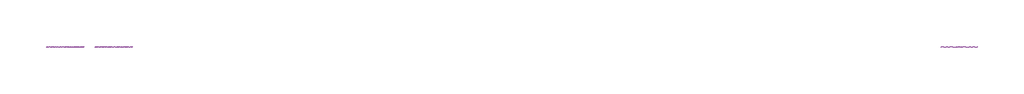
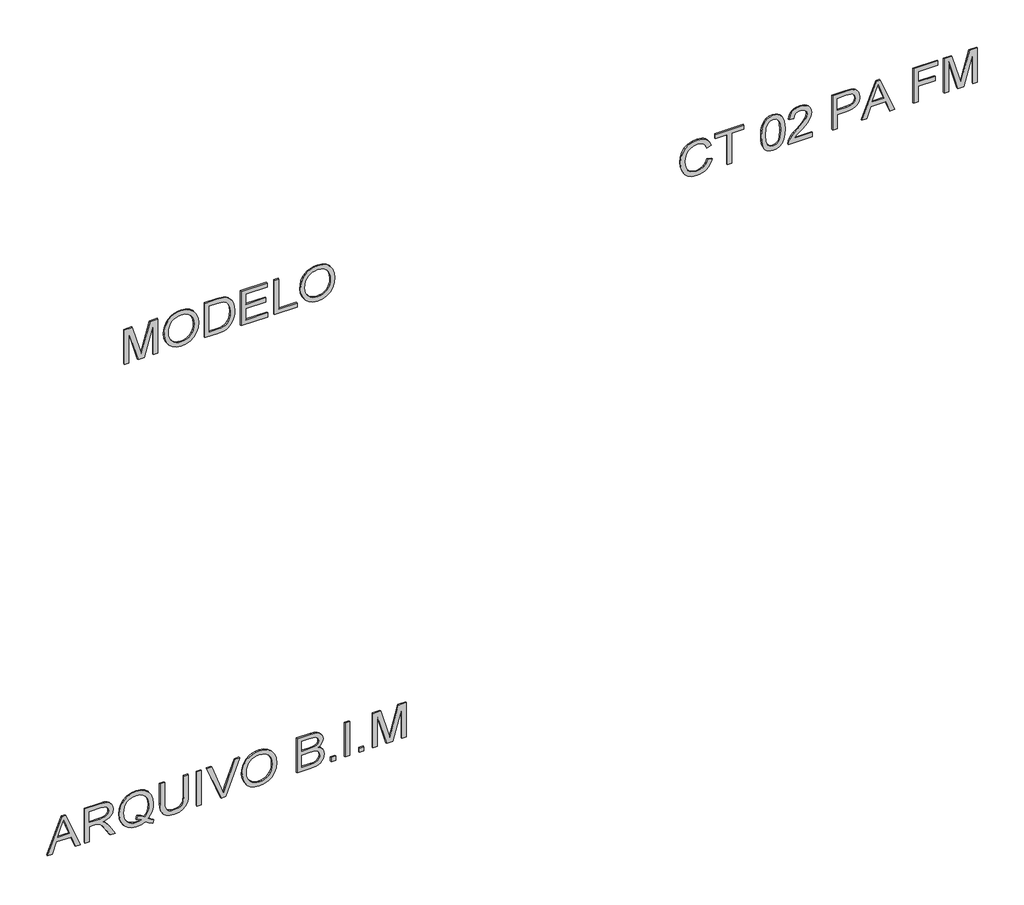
# One storey, part 1 of 2: 3 proxies.
"""IFC4 building model written with IfcOpenShell, lengths in millimetres."""

from ifc_helpers import new_model, si_unit, frame, origin, place, context, project, spatial, polyline, outline, extrude, element, save

model = new_model("IFC4")

# Units and contexts
model_context = context("Model", 3, world=origin())
ifc_project = project(units=[si_unit("LENGTHUNIT", "METRE", prefix="MILLI")], contexts=[model_context])

# Site, building, storey
site = spatial("IfcSite", under=ifc_project)
building = spatial("IfcBuilding", under=site)
storey = spatial("IfcBuildingStorey", under=building, Name="02 - Marelli - Planta Baixa - Cabine 02 Pessoas", Elevation=-12000.0)

# Proxies
placement = place(None, origin())
element("IfcBuildingElementProxy", 1, Name="300mm Arial", ObjectType="300mm Arial", at=placement, inside=storey, context=model_context, shape_type="SweptSolid", body=[
    extrude(outline(polyline([(-10400.0, -7636.3146377), (-10400.0, -7596.5098058), (-10305.8222092, -7562.076051), (-10305.8222092, -7437.9526659), (-10400.0, -7403.4453347), (-10400.0, -7363.6405028), (-10098.6310696, -7483.9379153), (-10098.6310696, -7516.0172252), (-10400.0, -7636.3146377)]), holes=[polyline([(-10268.1510929, -7548.243688), (-10187.584936, -7518.739552), (-10136.3021859, -7499.9775703), (-10194.0596591, -7478.8611437), (-10268.1510929, -7451.7114525), (-10268.1510929, -7548.243688)])]), frame((0.0, 8778.3159498, 0.0), z_axis=(0.0, 1.0, 0.0), x_axis=(0.0, 0.0, 1.0)), (0.0, 0.0, 1.0), 10.0),
    extrude(outline(polyline([(-10400.0, -7323.3942126), (-10400.0, -7285.7230963), (-10268.1510929, -7285.7230963), (-10268.1510929, -7240.2528817), (-10269.4754681, -7218.4006911), (-10276.649167, -7200.484838), (-10296.183701, -7180.582422), (-10337.5336372, -7152.2555084), (-10400.0, -7113.0392877), (-10400.0, -7069.2613303), (-10318.3301971, -7119.5140108), (-10279.5554348, -7150.0482164), (-10263.4422034, -7171.4589486), (-10253.4542072, -7134.3488523), (-10245.4389783, -7119.9669655), (-10235.4095954, -7108.3671864), (-10210.7982899, -7093.0540983), (-10181.1102129, -7087.9497357), (-10157.2438684, -7091.0307474), (-10135.5296337, -7100.2737825), (-10118.0184507, -7114.6763626), (-10106.7612616, -7133.2360093), (-10100.6636176, -7158.629064), (-10098.6310696, -7193.5318683), (-10098.6310696, -7323.3942126), (-10400.0, -7323.3942126)]), holes=[polyline([(-10230.4799766, -7285.7230963), (-10136.3021859, -7285.7230963), (-10136.3021859, -7191.9131875), (-10139.5579415, -7162.1055488), (-10149.3252085, -7141.5501423), (-10164.1324588, -7129.6031746), (-10182.5081645, -7125.620852), (-10195.8162956, -7127.7085823), (-10208.0759631, -7133.9717732), (-10218.2111121, -7144.254075), (-10225.1456877, -7158.3991377), (-10229.1464044, -7177.1887106), (-10230.4799766, -7201.404543), (-10230.4799766, -7285.7230963)])]), frame((0.0, 8778.3159498, 0.0), z_axis=(0.0, 1.0, 0.0), x_axis=(0.0, 0.0, 1.0)), (0.0, 0.0, 1.0), 10.0),
    extrude(outline(polyline([(-10363.8739881, -6795.6307023), (-10340.3479345, -6777.1814202), (-10313.0326963, -6764.0664271), (-10281.9650618, -6756.2305406), (-10247.1818192, -6753.6185784), (-10205.3536364, -6757.9227978), (-10168.0136138, -6770.8354558), (-10136.8172207, -6791.9610794), (-10113.4199258, -6820.9041954), (-10098.7966164, -6855.7702114), (-10093.92218, -6894.6645354), (-10098.6862519, -6933.2553567), (-10112.9784674, -6967.9466288), (-10136.3849593, -6996.93573), (-10168.4918604, -7018.4200386), (-10206.944726, -7031.7189727), (-10249.3891112, -7036.1519507), (-10291.7967082, -7031.7097756), (-10329.6977507, -7018.3832504), (-10361.3539964, -6996.8161684), (-10385.0272028, -6967.6523232), (-10399.7884679, -6932.8322924), (-10404.7088895, -6894.2966534), (-10400.4414584, -6855.9449554), (-10387.639165, -6821.0881364), (-10408.47968, -6790.1308665), (-10422.8822601, -6759.063232), (-10395.2911105, -6748.9096889), (-10382.4704229, -6771.2953083), (-10363.8739881, -6795.6307023)]), holes=[polyline([(-10313.7684603, -6883.9223811), (-10342.6104088, -6893.6344658), (-10349.287467, -6873.2721974), (-10359.3122513, -6853.9767867), (-10365.1063928, -6873.6032912), (-10367.0377732, -6894.5173826), (-10365.1362832, -6916.2385151), (-10359.431813, -6935.9316982), (-10349.9243627, -6953.5969318), (-10336.6139322, -6969.2342158), (-10319.748842, -6982.0296115), (-10299.5774124, -6991.1691798), (-10276.0996433, -6996.6529208), (-10249.3155348, -6998.4808344), (-10221.8140564, -6996.6322274), (-10197.9500112, -6991.0864063), (-10177.7233993, -6981.8433712), (-10161.1342205, -6968.903122), (-10148.2100662, -6953.1577726), (-10138.9785274, -6935.4994369), (-10133.4396041, -6915.9281147), (-10131.5932963, -6894.4438062), (-10135.2445251, -6865.9605427), (-10146.1982115, -6840.4019411), (-10163.7645768, -6819.2027411), (-10187.2538422, -6803.7976826), (-10215.9394408, -6794.4166917), (-10249.0948056, -6791.2896947), (-10278.2678478, -6793.5015852), (-10303.5413409, -6800.1372567), (-10324.9152848, -6811.1967092), (-10342.3896796, -6826.6799427), (-10325.7430193, -6852.2477413), (-10313.7684603, -6883.9223811)])]), frame((0.0, 8778.3159498, 0.0), z_axis=(0.0, 1.0, 0.0), x_axis=(0.0, 0.0, 1.0)), (0.0, 0.0, 1.0), 10.0),
    extrude(outline(polyline([(-10098.6310696, -6499.3385434), (-10271.1677253, -6499.3385434), (-10318.3301971, -6504.1026152), (-10335.0688279, -6510.057705), (-10347.2457219, -6518.3948307), (-10355.9047444, -6529.5278596), (-10362.0897604, -6543.8706589), (-10367.0377732, -6582.1855687), (-10364.5361757, -6606.3554158), (-10357.031383, -6626.4785609), (-10344.9188683, -6641.9112106), (-10328.5941047, -6652.0095714), (-10305.0220659, -6657.5829836), (-10271.1677253, -6659.4407877), (-10098.6310696, -6659.4407877), (-10098.6310696, -6697.111904), (-10272.4921005, -6697.111904), (-10315.2675795, -6694.2516215), (-10347.9446977, -6685.6707739), (-10372.3076828, -6670.4036711), (-10390.1407625, -6647.4846228), (-10401.0668578, -6616.904432), (-10404.7088895, -6578.6539015), (-10400.5242318, -6539.5480454), (-10387.9702588, -6508.7563224), (-10368.7484245, -6486.2235502), (-10344.5601833, -6471.8945465), (-10313.2074403, -6464.2242069), (-10272.4921005, -6461.6674271), (-10098.6310696, -6461.6674271), (-10098.6310696, -6499.3385434)])), frame((0.0, 8778.3159498, 0.0), z_axis=(0.0, 1.0, 0.0), x_axis=(0.0, 0.0, 1.0)), (0.0, 0.0, 1.0), 10.0),
    extrude(outline(polyline([(-6353.3629677, 8778.3159498), (-6391.034084, 8778.3159498), (-6391.034084, 8788.3159498), (-6353.3629677, 8788.3159498), (-6353.3629677, 8778.3159498)])), frame((0.0, 0.0, -10400.0), z_axis=(0.0, 0.0, 1.0), x_axis=(1.0, 0.0, 0.0)), (0.0, 0.0, 1.0), 301.3689304),
    extrude(outline(polyline([(-10400.0, -6188.9932922), (-10400.0, -6150.0713771), (-10098.6310696, -6035.2186183), (-10098.6310696, -6075.5384849), (-10315.7550231, -6156.0310655), (-10364.6833285, -6172.0707205), (-10315.7550231, -6188.3311046), (-10098.6310696, -6268.602956), (-10098.6310696, -6308.9228227), (-10400.0, -6188.9932922)])), frame((0.0, 8778.3159498, 0.0), z_axis=(0.0, 1.0, 0.0), x_axis=(0.0, 0.0, 1.0)), (0.0, 0.0, 1.0), 10.0),
    extrude(outline(polyline([(-10253.2886603, -6014.3229209), (-10291.8334964, -6010.0187016), (-10328.2997991, -5997.1060436), (-10359.992833, -5975.8424642), (-10384.2178624, -5946.485481), (-10399.5861328, -5910.8377157), (-10404.7088895, -5870.70179), (-10400.0735764, -5832.892718), (-10386.167637, -5797.7507904), (-10363.2485887, -5767.7868019), (-10331.5739489, -5745.5115471), (-10293.1118863, -5731.6883811), (-10249.8305696, -5727.0806591), (-10207.1194699, -5731.4584548), (-10169.1908362, -5744.5918421), (-10137.5713787, -5766.0761506), (-10113.7878078, -5795.5067102), (-10098.8885869, -5830.9521404), (-10093.92218, -5870.4810608), (-10096.5663319, -5900.7715446), (-10104.4987874, -5928.1465636), (-10117.7195466, -5952.6061177), (-10136.2286095, -5974.1502071), (-10159.4097737, -5991.7257694), (-10186.6468369, -6004.2797425), (-10217.9397991, -6011.8121263), (-10253.2886603, -6014.3229209)]), holes=[polyline([(-10253.6565423, -5976.6518046), (-10223.1200375, -5974.6882345), (-10197.2878236, -5968.797524), (-10176.1599008, -5958.9796733), (-10159.736269, -5945.2346822), (-10147.4237184, -5928.7673644), (-10138.6290395, -5910.7825334), (-10133.3522321, -5891.2801891), (-10131.5932963, -5870.2603316), (-10135.2445251, -5841.0964864), (-10146.1982115, -5814.9676677), (-10163.7921679, -5793.3086153), (-10187.3642068, -5777.5540688), (-10216.1877611, -5767.9523488), (-10249.536264, -5764.7517754), (-10276.0743514, -5766.6210758), (-10299.4026684, -5772.228977), (-10319.521215, -5781.5754789), (-10336.4299912, -5794.6605816), (-10349.8208959, -5810.642755), (-10359.3858277, -5828.6804691), (-10365.1247869, -5848.7737238), (-10367.0377732, -5870.9225192), (-10365.143181, -5892.6988341), (-10359.4594041, -5912.557564), (-10349.9864428, -5930.4987091), (-10336.7242968, -5946.5222692), (-10320.1650085, -5959.703941), (-10300.80062, -5969.1194208), (-10278.6311313, -5974.7687087), (-10253.6565423, -5976.6518046)])]), frame((0.0, 8778.3159498, 0.0), z_axis=(0.0, 1.0, 0.0), x_axis=(0.0, 0.0, 1.0)), (0.0, 0.0, 1.0), 10.0),
    extrude(outline(polyline([(-10400.0, -5557.5606357), (-10400.0, -5443.4436408), (-10394.8128639, -5395.1407348), (-10388.3933231, -5377.10532), (-10379.5089729, -5362.3624491), (-10367.2401083, -5350.3235108), (-10350.6670244, -5340.399894), (-10331.1784758, -5333.7504269), (-10310.1632168, -5331.5339379), (-10284.944906, -5334.7804965), (-10263.2950506, -5344.5201723), (-10246.3356906, -5360.2931129), (-10235.1888662, -5381.6394656), (-10223.4442335, -5363.7695977), (-10208.5174215, -5351.0684718), (-10191.456894, -5343.4809057), (-10173.3111146, -5340.951717), (-10153.5926396, -5343.9591523), (-10134.7570815, -5352.9814582), (-10118.7450176, -5367.3104619), (-10107.4970256, -5386.2379906), (-10100.8475586, -5410.9320695), (-10098.6310696, -5442.560724), (-10098.6310696, -5557.5606357), (-10400.0, -5557.5606357)]), holes=[polyline([(-10221.0621975, -5519.8895194), (-10136.3021859, -5519.8895194), (-10136.3021859, -5456.3195106), (-10140.2385232, -5407.9062401), (-10145.8395266, -5395.4166463), (-10154.769862, -5386.2012024), (-10166.2109921, -5380.5174255), (-10179.3443793, -5378.6228333), (-10192.8732397, -5380.6553813), (-10203.8821084, -5386.7530254), (-10212.2422267, -5396.8605832), (-10217.824836, -5410.9228724), (-10221.0621975, -5451.0955863), (-10221.0621975, -5519.8895194)]), polyline([(-10362.3288837, -5519.8895194), (-10258.7333139, -5519.8895194), (-10258.7333139, -5446.3131204), (-10259.9933097, -5419.4853259), (-10263.7732972, -5399.776048), (-10270.6618875, -5385.8609115), (-10281.247692, -5376.4155413), (-10294.7857494, -5371.007676), (-10310.5310988, -5369.2050542), (-10324.0875503, -5370.7409615), (-10335.9149564, -5375.3486835), (-10352.6535872, -5391.0204565), (-10360.8573557, -5414.6752688), (-10362.3288837, -5442.6343004), (-10362.3288837, -5519.8895194)])]), frame((0.0, 8778.3159498, 0.0), z_axis=(0.0, 1.0, 0.0), x_axis=(0.0, 0.0, 1.0)), (0.0, 0.0, 1.0), 10.0),
    extrude(outline(polyline([(-5237.3561471, 8778.3159498), (-5275.0272634, 8778.3159498), (-5275.0272634, 8788.3159498), (-5237.3561471, 8788.3159498), (-5237.3561471, 8778.3159498)])), frame((0.0, 0.0, -10400.0), z_axis=(0.0, 0.0, 1.0), x_axis=(1.0, 0.0, 0.0)), (0.0, 0.0, 1.0), 37.6711163),
    extrude(outline(polyline([(-5119.6339087, 8778.3159498), (-5157.305025, 8778.3159498), (-5157.305025, 8788.3159498), (-5119.6339087, 8788.3159498), (-5119.6339087, 8778.3159498)])), frame((0.0, 0.0, -10400.0), z_axis=(0.0, 0.0, 1.0), x_axis=(1.0, 0.0, 0.0)), (0.0, 0.0, 1.0), 301.3689304),
    extrude(outline(polyline([(-5001.9116702, 8778.3159498), (-5039.5827865, 8778.3159498), (-5039.5827865, 8788.3159498), (-5001.9116702, 8788.3159498), (-5001.9116702, 8778.3159498)])), frame((0.0, 0.0, -10400.0), z_axis=(0.0, 0.0, 1.0), x_axis=(1.0, 0.0, 0.0)), (0.0, 0.0, 1.0), 37.6711163),
    extrude(outline(polyline([(-10400.0, -4926.5694376), (-10400.0, -4888.8983213), (-10136.3021859, -4888.8983213), (-10400.0, -4813.1882067), (-10400.0, -4762.1261857), (-10136.3021859, -4686.4160711), (-10400.0, -4686.4160711), (-10400.0, -4648.7449548), (-10098.6310696, -4648.7449548), (-10098.6310696, -4713.5657624), (-10307.3673136, -4774.1927152), (-10355.4127022, -4787.6571962), (-10311.0461336, -4800.0916076), (-10098.6310696, -4861.74863), (-10098.6310696, -4926.5694376), (-10400.0, -4926.5694376)])), frame((0.0, 8778.3159498, 0.0), z_axis=(0.0, 1.0, 0.0), x_axis=(0.0, 0.0, 1.0)), (0.0, 0.0, 1.0), 10.0),
])
element("IfcBuildingElementProxy", 2, Name="300mm Arial", ObjectType="300mm Arial", at=placement, inside=storey, context=model_context, shape_type="SweptSolid", body=[
    extrude(outline(polyline([(-6300.0, -6993.7719449), (-6300.0, -6956.1008286), (-6036.3021859, -6956.1008286), (-6300.0, -6880.390714), (-6300.0, -6829.328693), (-6036.3021859, -6753.6185784), (-6300.0, -6753.6185784), (-6300.0, -6715.9474621), (-5998.6310696, -6715.9474621), (-5998.6310696, -6780.7682697), (-6207.3673136, -6841.3952225), (-6255.4127022, -6854.8597035), (-6211.0461336, -6867.2941149), (-5998.6310696, -6928.9511373), (-5998.6310696, -6993.7719449), (-6300.0, -6993.7719449)])), frame((0.0, 8778.3159498, 0.0), z_axis=(0.0, 1.0, 0.0), x_axis=(0.0, 0.0, 1.0)), (0.0, 0.0, 1.0), 10.0),
    extrude(outline(polyline([(-6153.2886603, -6664.1496772), (-6191.8334964, -6659.8454579), (-6228.2997991, -6646.9327998), (-6259.992833, -6625.6692205), (-6284.2178624, -6596.3122373), (-6299.5861328, -6560.664472), (-6304.7088895, -6520.5285463), (-6300.0735764, -6482.7194742), (-6286.167637, -6447.5775466), (-6263.2485887, -6417.6135581), (-6231.5739489, -6395.3383033), (-6193.1118863, -6381.5151374), (-6149.8305696, -6376.9074154), (-6107.1194699, -6381.2852111), (-6069.1908362, -6394.4185983), (-6037.5713787, -6415.9029069), (-6013.7878078, -6445.3334665), (-5998.8885869, -6480.7788967), (-5993.92218, -6520.3078171), (-5996.5663319, -6550.5983009), (-6004.4987874, -6577.9733198), (-6017.7195466, -6602.432874), (-6036.2286095, -6623.9769633), (-6059.4097737, -6641.5525257), (-6086.6468369, -6654.1064987), (-6117.9397991, -6661.6388826), (-6153.2886603, -6664.1496772)]), holes=[polyline([(-6153.6565423, -6626.4785609), (-6123.1200375, -6624.5149908), (-6097.2878236, -6618.6242803), (-6076.1599008, -6608.8064296), (-6059.736269, -6595.0614385), (-6047.4237184, -6578.5941207), (-6038.6290395, -6560.6092897), (-6033.3522321, -6541.1069454), (-6031.5932963, -6520.0870879), (-6035.2445251, -6490.9232427), (-6046.1982115, -6464.794424), (-6063.7921679, -6443.1353716), (-6087.3642068, -6427.3808251), (-6116.1877611, -6417.779105), (-6149.536264, -6414.5785317), (-6176.0743514, -6416.4478321), (-6199.4026684, -6422.0557332), (-6219.521215, -6431.4022352), (-6236.4299912, -6444.4873379), (-6249.8208959, -6460.4695113), (-6259.3858277, -6478.5072254), (-6265.1247869, -6498.6004801), (-6267.0377732, -6520.7492755), (-6265.143181, -6542.5255903), (-6259.4594041, -6562.3843203), (-6249.9864428, -6580.3254653), (-6236.7242968, -6596.3490255), (-6220.1650085, -6609.5306972), (-6200.80062, -6618.9461771), (-6178.6311313, -6624.5954649), (-6153.6565423, -6626.4785609)])]), frame((0.0, 8778.3159498, 0.0), z_axis=(0.0, 1.0, 0.0), x_axis=(0.0, 0.0, 1.0)), (0.0, 0.0, 1.0), 10.0),
    extrude(outline(polyline([(-6300.0, -6325.1096305), (-6300.0, -6216.1429835), (-6294.8496521, -6167.6929247), (-6288.4944906, -6148.1491937), (-6279.7297021, -6131.6772774), (-6267.911493, -6117.3298796), (-6252.3960698, -6104.1597042), (-6232.7419742, -6092.7185741), (-6208.5077478, -6083.5583124), (-6180.0428784, -6077.5434418), (-6147.696854, -6075.5384849), (-6109.6210675, -6078.499935), (-6076.0334413, -6087.3842852), (-6047.4857985, -6102.2283237), (-6024.529962, -6123.0688387), (-6011.3413925, -6143.3391366), (-6002.9720771, -6167.3618309), (-5998.6310696, -6221.1461786), (-5998.6310696, -6325.1096305), (-6300.0, -6325.1096305)]), holes=[polyline([(-6262.3288837, -6287.4385141), (-6036.3021859, -6287.4385141), (-6036.3021859, -6221.8083662), (-6037.810502, -6190.06015), (-6042.3354506, -6168.3919005), (-6054.9170148, -6147.10073), (-6075.7391357, -6129.2860444), (-6106.0526121, -6117.228712), (-6147.1082428, -6113.2096012), (-6178.0931038, -6115.2605434), (-6204.0931639, -6121.4133697), (-6225.2003933, -6131.245016), (-6241.5067628, -6144.332418), (-6250.3175366, -6156.5093121), (-6256.8842302, -6172.2914497), (-6260.9677203, -6193.2055411), (-6262.3288837, -6220.7782966), (-6262.3288837, -6287.4385141)])]), frame((0.0, 8778.3159498, 0.0), z_axis=(0.0, 1.0, 0.0), x_axis=(0.0, 0.0, 1.0)), (0.0, 0.0, 1.0), 10.0),
    extrude(outline(polyline([(-6300.0, -6023.7407), (-6300.0, -5802.4228917), (-6262.3288837, -5802.4228917), (-6262.3288837, -5986.0695837), (-6163.4422034, -5986.0695837), (-6163.4422034, -5816.5495603), (-6125.7710871, -5816.5495603), (-6125.7710871, -5986.0695837), (-6036.3021859, -5986.0695837), (-6036.3021859, -5807.1317812), (-5998.6310696, -5807.1317812), (-5998.6310696, -6023.7407), (-6300.0, -6023.7407)])), frame((0.0, 8778.3159498, 0.0), z_axis=(0.0, 1.0, 0.0), x_axis=(0.0, 0.0, 1.0)), (0.0, 0.0, 1.0), 10.0),
    extrude(outline(polyline([(-6300.0, -5745.9162172), (-6300.0, -5557.5606357), (-6262.3288837, -5557.5606357), (-6262.3288837, -5708.2451009), (-5998.6310696, -5708.2451009), (-5998.6310696, -5745.9162172), (-6300.0, -5745.9162172)])), frame((0.0, 8778.3159498, 0.0), z_axis=(0.0, 1.0, 0.0), x_axis=(0.0, 0.0, 1.0)), (0.0, 0.0, 1.0), 10.0),
    extrude(outline(polyline([(-6153.2886603, -5529.3072985), (-6191.8334964, -5525.0030791), (-6228.2997991, -5512.0904211), (-6259.992833, -5490.8268418), (-6284.2178624, -5461.4698586), (-6299.5861328, -5425.8220932), (-6304.7088895, -5385.6861676), (-6300.0735764, -5347.8770955), (-6286.167637, -5312.7351679), (-6263.2485887, -5282.7711794), (-6231.5739489, -5260.4959246), (-6193.1118863, -5246.6727586), (-6149.8305696, -5242.0650367), (-6107.1194699, -5246.4428324), (-6069.1908362, -5259.5762196), (-6037.5713787, -5281.0605281), (-6013.7878078, -5310.4910878), (-5998.8885869, -5345.936518), (-5993.92218, -5385.4654384), (-5996.5663319, -5415.7559222), (-6004.4987874, -5443.1309411), (-6017.7195466, -5467.5904953), (-6036.2286095, -5489.1345846), (-6059.4097737, -5506.7101469), (-6086.6468369, -5519.26412), (-6117.9397991, -5526.7965039), (-6153.2886603, -5529.3072985)]), holes=[polyline([(-6153.6565423, -5491.6361822), (-6123.1200375, -5489.672612), (-6097.2878236, -5483.7819016), (-6076.1599008, -5473.9640508), (-6059.736269, -5460.2190598), (-6047.4237184, -5443.751742), (-6038.6290395, -5425.7669109), (-6033.3522321, -5406.2645667), (-6031.5932963, -5385.2447092), (-6035.2445251, -5356.080864), (-6046.1982115, -5329.9520453), (-6063.7921679, -5308.2929928), (-6087.3642068, -5292.5384464), (-6116.1877611, -5282.9367263), (-6149.536264, -5279.736153), (-6176.0743514, -5281.6054533), (-6199.4026684, -5287.2133545), (-6219.521215, -5296.5598565), (-6236.4299912, -5309.6449592), (-6249.8208959, -5325.6271326), (-6259.3858277, -5343.6648467), (-6265.1247869, -5363.7581014), (-6267.0377732, -5385.9068968), (-6265.143181, -5407.6832116), (-6259.4594041, -5427.5419416), (-6249.9864428, -5445.4830866), (-6236.7242968, -5461.5066468), (-6220.1650085, -5474.6883185), (-6200.80062, -5484.1037983), (-6178.6311313, -5489.7530862), (-6153.6565423, -5491.6361822)])]), frame((0.0, 8778.3159498, 0.0), z_axis=(0.0, 1.0, 0.0), x_axis=(0.0, 0.0, 1.0)), (0.0, 0.0, 1.0), 10.0),
])
element("IfcBuildingElementProxy", 3, Name="300mm Arial", ObjectType="300mm Arial", at=placement, inside=storey, context=model_context, shape_type="SweptSolid", body=[
    extrude(outline(polyline([(-6192.872763, -2142.1019653), (-6225.136014, -2154.2880564), (-6248.3493679, -2174.0709107), (-6262.3656719, -2200.2733058), (-6267.0377732, -2231.7180194), (-6263.6072736, -2258.6929667), (-6253.3157748, -2283.6997453), (-6236.0897004, -2304.5586544), (-6211.855474, -2319.0899932), (-6181.7627268, -2327.6156585), (-6146.96109, -2330.4575469), (-6118.5422059, -2328.0571169), (-6090.9694503, -2320.8558268), (-6066.5788741, -2307.7316366), (-6047.7065277, -2287.5625062), (-6035.6216042, -2260.9830321), (-6031.5932963, -2228.6278106), (-6035.226131, -2200.5584144), (-6046.1246351, -2177.7129425), (-6064.9693903, -2159.8706657), (-6092.4409783, -2146.8108549), (-6083.4646576, -2109.1397386), (-6045.6463885, -2125.7772018), (-6030.3241034, -2137.5793161), (-6017.3930513, -2151.7036854), (-6007.1245451, -2167.8835954), (-5999.7898978, -2185.8523316), (-5993.92218, -2227.1562826), (-5998.4563256, -2265.0113399), (-6012.0587624, -2299.5554593), (-6034.3983965, -2328.6825162), (-6065.1441343, -2350.2863864), (-6103.0911621, -2363.668094), (-6147.0346664, -2368.1286632), (-6188.6973024, -2364.1831288), (-6227.6008233, -2352.3465256), (-6260.6918088, -2332.9591444), (-6284.9168382, -2306.3612762), (-6299.7608767, -2271.660807), (-6304.7088895, -2227.965623), (-6303.0741139, -2205.5432154), (-6298.1697871, -2184.9234296), (-6289.995909, -2166.1062655), (-6278.5524797, -2149.0917233), (-6263.995849, -2134.2154951), (-6246.4823668, -2121.8132733), (-6226.012033, -2111.885058), (-6202.5848477, -2104.430849), (-6192.872763, -2142.1019653)])), frame((0.0, 8778.3159498, 0.0), z_axis=(0.0, 1.0, 0.0), x_axis=(0.0, 0.0, 1.0)), (0.0, 0.0, 1.0), 10.0),
    extrude(outline(polyline([(-6300.0, -1977.2908315), (-6300.0, -1939.6197152), (-6036.3021859, -1939.6197152), (-6036.3021859, -1840.7330349), (-5998.6310696, -1840.7330349), (-5998.6310696, -2076.1775118), (-6036.3021859, -2076.1775118), (-6036.3021859, -1977.2908315), (-6300.0, -1977.2908315)])), frame((0.0, 8778.3159498, 0.0), z_axis=(0.0, 1.0, 0.0), x_axis=(0.0, 0.0, 1.0)), (0.0, 0.0, 1.0), 10.0),
    extrude(outline(polyline([(-6151.7435559, -1694.7574592), (-6191.1851044, -1692.881261), (-6225.0440435, -1687.2526665), (-6253.3203733, -1677.8716756), (-6276.0140939, -1664.7382884), (-6288.568067, -1651.0530782), (-6297.5351906, -1635.0134232), (-6302.9154648, -1616.6193234), (-6304.7088895, -1595.8707789), (-6300.5794141, -1565.4193468), (-6288.190988, -1540.7252678), (-6267.4056552, -1521.6229952), (-6238.0854602, -1507.9469821), (-6199.7061711, -1499.7248195), (-6151.7435559, -1496.9840986), (-6111.7823742, -1498.6947499), (-6080.9262719, -1503.8267037), (-6056.6276661, -1511.6625902), (-6036.3389741, -1521.4850395), (-6020.1981515, -1534.489668), (-6008.3431542, -1551.8720923), (-6001.0590907, -1572.657425), (-5998.6310696, -1595.8707789), (-6002.7329538, -1626.1566642), (-6015.0386065, -1650.7955608), (-6035.7411658, -1669.9254245), (-6065.0337697, -1683.6842112), (-6103.5050293, -1691.9891472), (-6151.7435559, -1694.7574592)]), holes=[polyline([(-6151.6699795, -1657.0863429), (-6093.1767423, -1652.5246062), (-6072.097104, -1646.8224352), (-6056.4621192, -1638.8393959), (-6041.3421692, -1619.8934732), (-6036.3021859, -1596.3122373), (-6042.0227509, -1571.4066262), (-6059.184446, -1551.7249395), (-6073.5456393, -1544.256935), (-6093.7469594, -1538.9226461), (-6151.6699795, -1534.6552149), (-6210.8346014, -1539.0697988), (-6231.0980016, -1544.5880288), (-6245.1487945, -1552.3135507), (-6261.5655286, -1572.0320256), (-6267.0377732, -1595.8707789), (-6261.5839227, -1619.7095322), (-6245.2223709, -1639.4280071), (-6231.1945706, -1647.153529), (-6210.9265719, -1652.671759), (-6151.6699795, -1657.0863429)])]), frame((0.0, 8778.3159498, 0.0), z_axis=(0.0, 1.0, 0.0), x_axis=(0.0, 0.0, 1.0)), (0.0, 0.0, 1.0), 10.0),
    extrude(outline(polyline([(-6262.3288837, -1270.9574008), (-6262.3288837, -1418.9195392), (-6243.1622317, -1401.923391), (-6206.9258552, -1358.586892), (-6177.9091629, -1325.8913797), (-6155.3120113, -1304.6186033), (-6136.3844826, -1291.2736839), (-6118.376659, -1282.3617426), (-6100.672338, -1277.3401534), (-6082.6553172, -1275.6662903), (-6065.5028192, -1277.2182925), (-6049.8034551, -1281.874299), (-6035.5572248, -1289.6343098), (-6022.7641284, -1300.498325), (-6012.2059152, -1314.0248861), (-6004.6643343, -1329.7725347), (-6000.1393857, -1347.7412709), (-5998.6310696, -1367.9310947), (-6004.057329, -1405.8137431), (-6010.8401533, -1421.5475962), (-6020.3361073, -1435.1431352), (-6032.4164323, -1446.3428427), (-6046.9523696, -1454.8892013), (-6083.3910812, -1464.0218718), (-6088.0999708, -1426.3507555), (-6066.4501154, -1422.2764624), (-6050.0609725, -1410.4950415), (-6039.7418825, -1392.2388975), (-6036.3021859, -1368.7404351), (-6039.824656, -1346.3640127), (-6050.3920663, -1328.6780858), (-6066.0730363, -1317.1725764), (-6084.9361856, -1313.3374066), (-6105.9790357, -1317.4025027), (-6127.6104971, -1329.5977908), (-6154.2635476, -1353.9883671), (-6190.3711654, -1394.6393275), (-6213.4281695, -1422.1385067), (-6234.0387583, -1441.8017993), (-6253.7296421, -1455.395039), (-6274.0275311, -1464.6840594), (-6300.0, -1468.7307614), (-6300.0, -1270.9574008), (-6262.3288837, -1270.9574008)])), frame((0.0, 8778.3159498, 0.0), z_axis=(0.0, 1.0, 0.0), x_axis=(0.0, 0.0, 1.0)), (0.0, 0.0, 1.0), 10.0),
    extrude(outline(polyline([(-6300.0, -1101.4373774), (-6300.0, -1063.7662611), (-6177.568872, -1063.7662611), (-6177.568872, -987.1732297), (-6175.904206, -957.9748956), (-6170.9102079, -933.6555964), (-6162.5868778, -914.2153323), (-6150.9342156, -899.654103), (-6136.8765248, -889.0476053), (-6121.338109, -881.4715354), (-6104.3189682, -876.9258935), (-6085.8191024, -875.4106796), (-6064.362385, -877.6547597), (-6044.7266835, -884.3870002), (-6028.0800233, -894.8072577), (-6015.5904295, -908.1153889), (-6006.8624292, -924.6424876), (-6001.5005491, -944.7196474), (-5998.6310696, -989.7484037), (-5998.6310696, -1101.4373774), (-6300.0, -1101.4373774)]), holes=[polyline([(-6139.8977557, -1063.7662611), (-6036.3021859, -1063.7662611), (-6036.3021859, -985.8488545), (-6038.8773598, -948.1777382), (-6045.2049301, -933.949902), (-6055.9470844, -922.7570923), (-6070.2209058, -915.50062), (-6087.1434776, -913.0817959), (-6109.4187324, -917.1836801), (-6126.0653927, -929.4893328), (-6136.4396649, -951.5622526), (-6139.8977557, -984.9659377), (-6139.8977557, -1063.7662611)])]), frame((0.0, 8778.3159498, 0.0), z_axis=(0.0, 1.0, 0.0), x_axis=(0.0, 0.0, 1.0)), (0.0, 0.0, 1.0), 10.0),
    extrude(outline(polyline([(-6300.0, -858.708837), (-6300.0, -818.9040051), (-6205.8222092, -784.4702503), (-6205.8222092, -660.3468652), (-6300.0, -625.839534), (-6300.0, -586.0347021), (-5998.6310696, -706.3321146), (-5998.6310696, -738.4114245), (-6300.0, -858.708837)]), holes=[polyline([(-6168.1510929, -770.6378873), (-6087.584936, -741.1337513), (-6036.3021859, -722.3717696), (-6094.0596591, -701.255343), (-6168.1510929, -674.1056518), (-6168.1510929, -770.6378873)])]), frame((0.0, 8778.3159498, 0.0), z_axis=(0.0, 1.0, 0.0), x_axis=(0.0, 0.0, 1.0)), (0.0, 0.0, 1.0), 10.0),
    extrude(outline(polyline([(-6300.0, -428.0661734), (-6300.0, -390.3950571), (-6163.4422034, -390.3950571), (-6163.4422034, -249.128371), (-6125.7710871, -249.128371), (-6125.7710871, -390.3950571), (-6036.3021859, -390.3950571), (-6036.3021859, -225.5839233), (-5998.6310696, -225.5839233), (-5998.6310696, -428.0661734), (-6300.0, -428.0661734)])), frame((0.0, 8778.3159498, 0.0), z_axis=(0.0, 1.0, 0.0), x_axis=(0.0, 0.0, 1.0)), (0.0, 0.0, 1.0), 10.0),
    extrude(outline(polyline([(-6300.0, -173.7861383), (-6300.0, -136.115022), (-6036.3021859, -136.115022), (-6300.0, -60.4049074), (-6300.0, -9.3428865), (-6036.3021859, 66.3672281), (-6300.0, 66.3672281), (-6300.0, 104.0383444), (-5998.6310696, 104.0383444), (-5998.6310696, 39.2175369), (-6207.3673136, -21.4094159), (-6255.4127022, -34.873897), (-6211.0461336, -47.3083084), (-5998.6310696, -108.9653308), (-5998.6310696, -173.7861383), (-6300.0, -173.7861383)])), frame((0.0, 8778.3159498, 0.0), z_axis=(0.0, 1.0, 0.0), x_axis=(0.0, 0.0, 1.0)), (0.0, 0.0, 1.0), 10.0),
])

save(model, "model.ifc")
